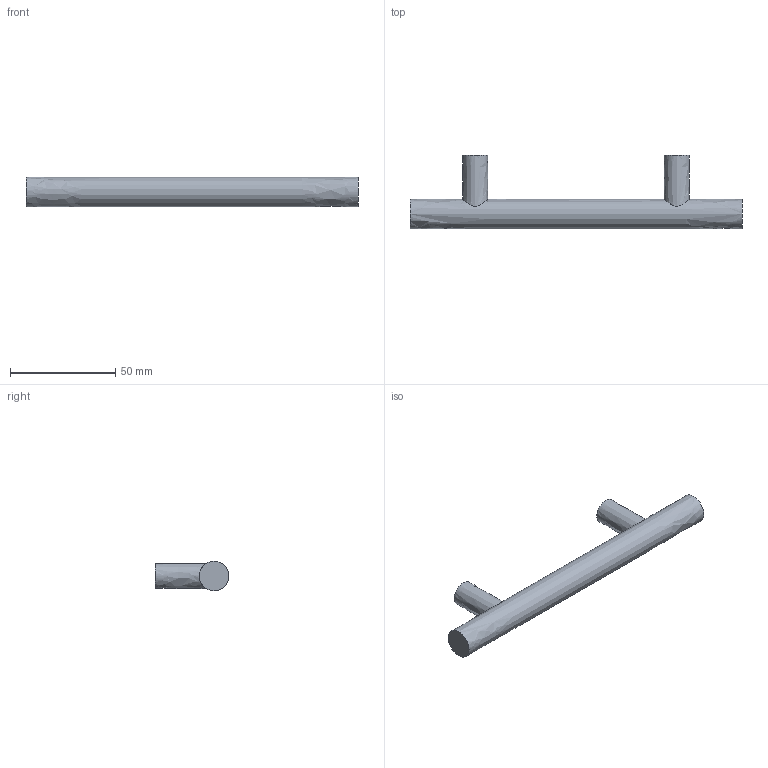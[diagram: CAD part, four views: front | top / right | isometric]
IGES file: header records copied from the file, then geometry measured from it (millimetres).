
Start section: Data from Parasolid IGES Translator 15.0.47, Copyright(c) 2006 Siemens P LM Software. All Rights Reserved.
Global section: file name: 9071045.igs; native system:  By UGS Corp.; preprocessor: XPlus GENERIC/IGES 3.0; author: Noname; organization: Noname; date: 20140122.181355; units: millimetre
Bounding box: 158 x 35 x 14 mm (x, y, z)
Surface area: 9228.9 mm2 (no closed solid volume)
Topology: 0 solids, 0 shells, 11 faces, 30 edges, 22 vertices
Faces by surface type: extrusion 6, revolution 5
